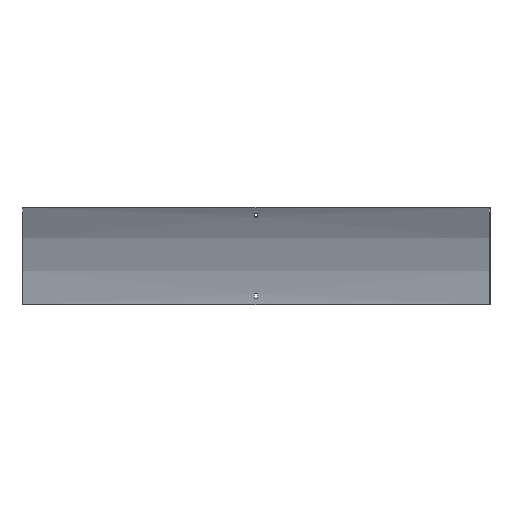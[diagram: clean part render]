
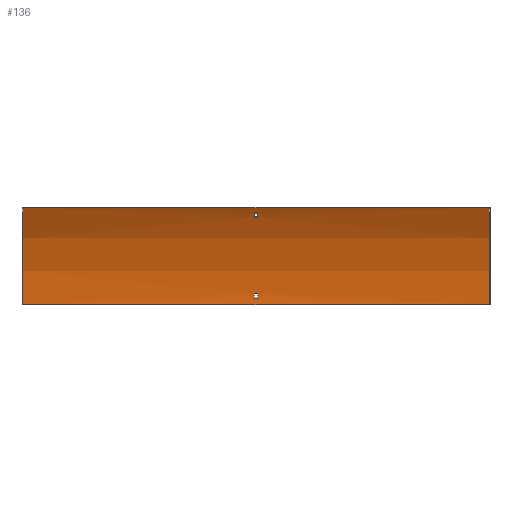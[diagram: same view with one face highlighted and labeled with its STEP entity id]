
A CAD part, front view. The second image highlights one B-rep face of the part: STEP entity #136.
In plain terms, the highlighted cylindrical face has radius 375 mm (diameter 750 mm), a partial arc.
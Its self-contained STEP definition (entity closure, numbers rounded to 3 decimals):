
#15 = ORIENTED_EDGE ( 'NONE', *, *, #350, .T. ) ;
#16 = VERTEX_POINT ( 'NONE', #592 ) ;
#20 = VECTOR ( 'NONE', #373, 1000. ) ;
#23 = DIRECTION ( 'NONE',  ( 0., 0., 1. ) ) ;
#24 = EDGE_CURVE ( 'NONE', #342, #219, #122, .T. ) ;
#25 = ORIENTED_EDGE ( 'NONE', *, *, #113, .F. ) ;
#27 = DIRECTION ( 'NONE',  ( -1., 0., 0. ) ) ;
#31 = AXIS2_PLACEMENT_3D ( 'NONE', #572, #149, #563 ) ;
#35 = CARTESIAN_POINT ( 'NONE',  ( -3.25, -45.907, 177.012 ) ) ;
#36 = DIRECTION ( 'NONE',  ( 0., 0., -1. ) ) ;
#39 = CARTESIAN_POINT ( 'NONE',  ( 450., -1.5, 0. ) ) ;
#40 = CARTESIAN_POINT ( 'NONE',  ( 450., -376.5, 0. ) ) ;
#41 = CARTESIAN_POINT ( 'NONE',  ( 450., -1.5, 0. ) ) ;
#46 = VERTEX_POINT ( 'NONE', #144 ) ;
#50 = LINE ( 'NONE', #429, #130 ) ;
#60 = AXIS2_PLACEMENT_3D ( 'NONE', #108, #62, #309 ) ;
#62 = DIRECTION ( 'NONE',  ( -1., 0., 0. ) ) ;
#63 = CARTESIAN_POINT ( 'NONE',  ( 450., -51.74, 187.5 ) ) ;
#66 = ORIENTED_EDGE ( 'NONE', *, *, #600, .F. ) ;
#70 = VECTOR ( 'NONE', #79, 1000. ) ;
#78 = FACE_OUTER_BOUND ( 'NONE', #279, .T. ) ;
#79 = DIRECTION ( 'NONE',  ( -1., 0., 0. ) ) ;
#84 = EDGE_LOOP ( 'NONE', ( #535, #15, #365, #119 ) ) ;
#87 = EDGE_LOOP ( 'NONE', ( #156, #347, #66, #209 ) ) ;
#88 = CARTESIAN_POINT ( 'NONE',  ( -3.25, -376.5, 0. ) ) ;
#98 = LINE ( 'NONE', #39, #224 ) ;
#108 = CARTESIAN_POINT ( 'NONE',  ( 451.5, -376.5, 0. ) ) ;
#111 = VERTEX_POINT ( 'NONE', #382 ) ;
#112 = FACE_BOUND ( 'NONE', #87, .T. ) ;
#113 = EDGE_CURVE ( 'NONE', #210, #588, #376, .T. ) ;
#118 = CARTESIAN_POINT ( 'NONE',  ( -450., -1.5, 0. ) ) ;
#119 = ORIENTED_EDGE ( 'NONE', *, *, #274, .T. ) ;
#120 = CARTESIAN_POINT ( 'NONE',  ( 451.5, -45.907, 177.012 ) ) ;
#122 = CIRCLE ( 'NONE', #249, 375. ) ;
#125 = DIRECTION ( 'NONE',  ( 1., 0., 0. ) ) ;
#130 = VECTOR ( 'NONE', #562, 1000. ) ;
#136 = ADVANCED_FACE ( 'NONE', ( #112, #78, #540 ), #453, .F. ) ;
#144 = CARTESIAN_POINT ( 'NONE',  ( -3.25, -1.692, 12. ) ) ;
#145 = CARTESIAN_POINT ( 'NONE',  ( -3.25, -2.088, 21. ) ) ;
#149 = DIRECTION ( 'NONE',  ( 1., 0., 0. ) ) ;
#155 = ORIENTED_EDGE ( 'NONE', *, *, #24, .T. ) ;
#156 = ORIENTED_EDGE ( 'NONE', *, *, #247, .F. ) ;
#159 = EDGE_CURVE ( 'NONE', #576, #558, #397, .T. ) ;
#163 = DIRECTION ( 'NONE',  ( 0., 0., 1. ) ) ;
#186 = LINE ( 'NONE', #407, #20 ) ;
#209 = ORIENTED_EDGE ( 'NONE', *, *, #399, .F. ) ;
#210 = VERTEX_POINT ( 'NONE', #118 ) ;
#213 = DIRECTION ( 'NONE',  ( 1., 0., 0. ) ) ;
#214 = CIRCLE ( 'NONE', #234, 375. ) ;
#219 = VERTEX_POINT ( 'NONE', #63 ) ;
#224 = VECTOR ( 'NONE', #364, 1000. ) ;
#229 = DIRECTION ( 'NONE',  ( 0., 0., -1. ) ) ;
#230 = DIRECTION ( 'NONE',  ( -1., 0., 0. ) ) ;
#234 = AXIS2_PLACEMENT_3D ( 'NONE', #345, #27, #23 ) ;
#237 = DIRECTION ( 'NONE',  ( 1., 0., 0. ) ) ;
#238 = DIRECTION ( 'NONE',  ( 1., 0., 0. ) ) ;
#247 = EDGE_CURVE ( 'NONE', #461, #46, #599, .T. ) ;
#249 = AXIS2_PLACEMENT_3D ( 'NONE', #40, #125, #36 ) ;
#266 = CARTESIAN_POINT ( 'NONE',  ( -3.25, -376.5, 0. ) ) ;
#270 = DIRECTION ( 'NONE',  ( -1., 0., 0. ) ) ;
#273 = CIRCLE ( 'NONE', #431, 375. ) ;
#274 = EDGE_CURVE ( 'NONE', #558, #111, #214, .T. ) ;
#279 = EDGE_LOOP ( 'NONE', ( #25, #281, #155, #401 ) ) ;
#281 = ORIENTED_EDGE ( 'NONE', *, *, #550, .F. ) ;
#295 = VECTOR ( 'NONE', #230, 1000. ) ;
#309 = DIRECTION ( 'NONE',  ( 0., 0., 1. ) ) ;
#311 = EDGE_CURVE ( 'NONE', #219, #588, #499, .T. ) ;
#323 = LINE ( 'NONE', #606, #295 ) ;
#327 = CARTESIAN_POINT ( 'NONE',  ( 3.25, -45.907, 177.012 ) ) ;
#332 = AXIS2_PLACEMENT_3D ( 'NONE', #266, #270, #163 ) ;
#334 = CARTESIAN_POINT ( 'NONE',  ( 3.25, -2.088, 21. ) ) ;
#342 = VERTEX_POINT ( 'NONE', #41 ) ;
#345 = CARTESIAN_POINT ( 'NONE',  ( 3.25, -376.5, 0. ) ) ;
#347 = ORIENTED_EDGE ( 'NONE', *, *, #567, .F. ) ;
#350 = EDGE_CURVE ( 'NONE', #16, #576, #273, .T. ) ;
#364 = DIRECTION ( 'NONE',  ( -1., 0., 0. ) ) ;
#365 = ORIENTED_EDGE ( 'NONE', *, *, #159, .T. ) ;
#373 = DIRECTION ( 'NONE',  ( 1., 0., 0. ) ) ;
#376 = CIRCLE ( 'NONE', #31, 375. ) ;
#382 = CARTESIAN_POINT ( 'NONE',  ( 3.25, -41.75, 169.019 ) ) ;
#386 = VERTEX_POINT ( 'NONE', #598 ) ;
#397 = LINE ( 'NONE', #120, #590 ) ;
#399 = EDGE_CURVE ( 'NONE', #46, #386, #186, .T. ) ;
#401 = ORIENTED_EDGE ( 'NONE', *, *, #311, .T. ) ;
#407 = CARTESIAN_POINT ( 'NONE',  ( 451.5, -1.692, 12. ) ) ;
#429 = CARTESIAN_POINT ( 'NONE',  ( 451.5, -41.75, 169.019 ) ) ;
#431 = AXIS2_PLACEMENT_3D ( 'NONE', #88, #237, #229 ) ;
#449 = EDGE_CURVE ( 'NONE', #111, #16, #50, .T. ) ;
#453 = CYLINDRICAL_SURFACE ( 'NONE', #60, 375. ) ;
#461 = VERTEX_POINT ( 'NONE', #145 ) ;
#472 = CARTESIAN_POINT ( 'NONE',  ( 3.25, -376.5, 0. ) ) ;
#499 = LINE ( 'NONE', #500, #70 ) ;
#500 = CARTESIAN_POINT ( 'NONE',  ( 450., -51.74, 187.5 ) ) ;
#505 = CIRCLE ( 'NONE', #554, 375. ) ;
#535 = ORIENTED_EDGE ( 'NONE', *, *, #449, .T. ) ;
#539 = VERTEX_POINT ( 'NONE', #334 ) ;
#540 = FACE_BOUND ( 'NONE', #84, .T. ) ;
#550 = EDGE_CURVE ( 'NONE', #342, #210, #98, .T. ) ;
#554 = AXIS2_PLACEMENT_3D ( 'NONE', #472, #238, #559 ) ;
#558 = VERTEX_POINT ( 'NONE', #327 ) ;
#559 = DIRECTION ( 'NONE',  ( 0., 0., -1. ) ) ;
#562 = DIRECTION ( 'NONE',  ( -1., 0., 0. ) ) ;
#563 = DIRECTION ( 'NONE',  ( 0., 0., -1. ) ) ;
#567 = EDGE_CURVE ( 'NONE', #539, #461, #323, .T. ) ;
#572 = CARTESIAN_POINT ( 'NONE',  ( -450., -376.5, 0. ) ) ;
#576 = VERTEX_POINT ( 'NONE', #35 ) ;
#588 = VERTEX_POINT ( 'NONE', #602 ) ;
#590 = VECTOR ( 'NONE', #213, 1000. ) ;
#592 = CARTESIAN_POINT ( 'NONE',  ( -3.25, -41.75, 169.019 ) ) ;
#598 = CARTESIAN_POINT ( 'NONE',  ( 3.25, -1.692, 12. ) ) ;
#599 = CIRCLE ( 'NONE', #332, 375. ) ;
#600 = EDGE_CURVE ( 'NONE', #386, #539, #505, .T. ) ;
#602 = CARTESIAN_POINT ( 'NONE',  ( -450., -51.74, 187.5 ) ) ;
#606 = CARTESIAN_POINT ( 'NONE',  ( 451.5, -2.088, 21. ) ) ;
